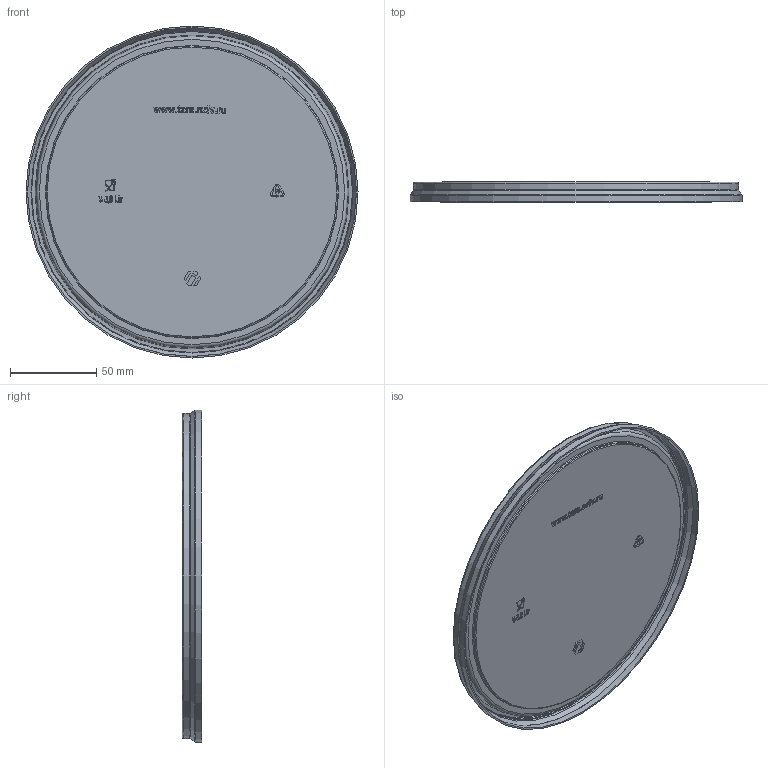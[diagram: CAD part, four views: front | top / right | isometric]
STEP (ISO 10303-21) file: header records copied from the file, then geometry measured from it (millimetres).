
FILE_DESCRIPTION(('STEP AP203'), '1');
FILE_NAME('169.12-00-02 - Êðûøêà 3L.', '', ('UNSPECIFIED'), ('UNSPECIFIED'), 'C3D Converter', 'C3D Toolkit', '');
FILE_SCHEMA(('CONFIG_CONTROL_DESIGN'));
Length unit declared in the file: millimetre
Products named in the file (1): 169.12-00-02
Bounding box: 192.3 x 11.4 x 192.3 mm (x, y, z)
Volume: 34340.9 mm3; surface area: 76287.5 mm2
Topology: 1 solids, 1 shells, 566 faces, 1525 edges, 1010 vertices
Faces by surface type: plane 313, extrusion 201, cylinder 24, torus 15, bspline 9, cone 4
Full cylindrical faces by diameter (mm): 167 x1, 168.8 x1, 186.5 x2, 188.3 x1, 190.5 x1, 192.3 x1
Entity records: 18037 total; most frequent: CARTESIAN_POINT 4555, ORIENTED_EDGE 2998, DIRECTION 2060, EDGE_CURVE 1499, VECTOR 1214, LINE 1013, VERTEX_POINT 1010, EDGE_LOOP 641
